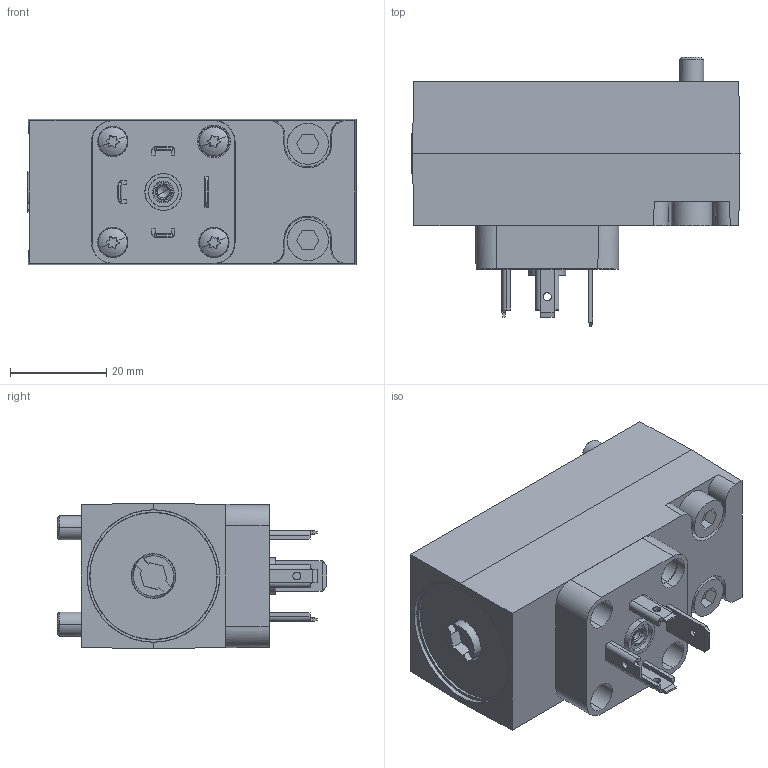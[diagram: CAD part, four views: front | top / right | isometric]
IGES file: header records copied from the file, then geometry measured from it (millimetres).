
Start section:  PTC IGES file: r412010715.igs
Global section: file name: r412010715.igs; native system: Creo Parametric by PTC Inc.; preprocessor: 2020044; author: PDH2HC; organization: Unknown; date: 20220428.132148; units: millimetre
Bounding box: 68.1 x 56 x 30.2 mm (x, y, z)
Surface area: 15095.8 mm2 (no closed solid volume)
Topology: 0 solids, 0 shells, 349 faces, 1860 edges, 1858 vertices
Faces by surface type: bspline 349
